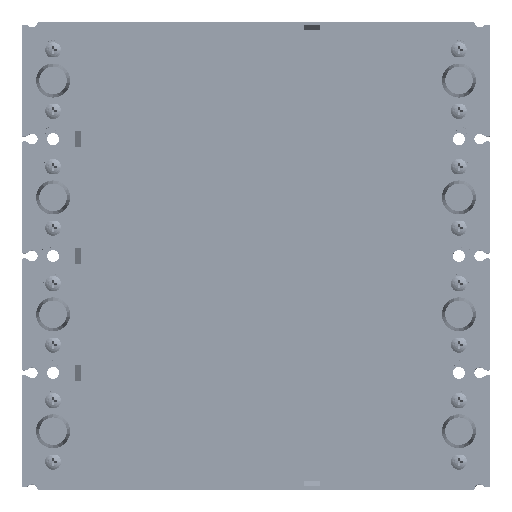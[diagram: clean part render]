
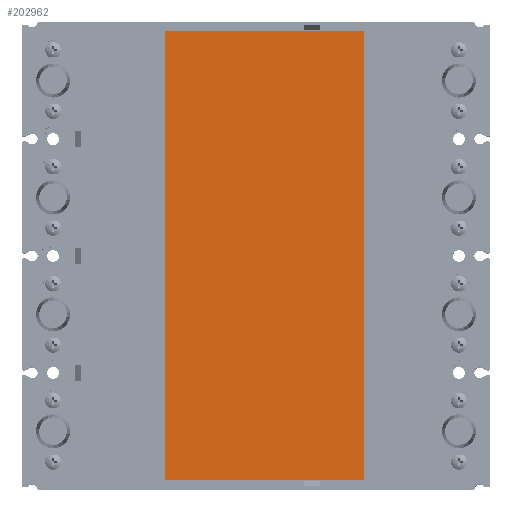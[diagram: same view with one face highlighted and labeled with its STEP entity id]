
A CAD part, top view. The second image highlights one B-rep face of the part: STEP entity #202962.
In plain terms, the highlighted planar face has unit normal (0, 0, 1) as drawn and (0, -1, 0) by its records, which use the part's own axes.
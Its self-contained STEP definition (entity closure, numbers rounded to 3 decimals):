
#202883=DIRECTION('',(-1.,0.,0.));
#202884=VECTOR('',#202883,269.);
#202885=CARTESIAN_POINT('',(134.5,0.,59.5));
#202886=LINE('',#202885,#202884);
#202891=DIRECTION('',(0.,0.,-1.));
#202892=VECTOR('',#202891,119.);
#202893=CARTESIAN_POINT('',(-134.5,0.,59.5));
#202894=LINE('',#202893,#202892);
#202899=DIRECTION('',(1.,0.,0.));
#202900=VECTOR('',#202899,269.);
#202901=CARTESIAN_POINT('',(-134.5,0.,-59.5));
#202902=LINE('',#202901,#202900);
#202907=DIRECTION('',(0.,0.,1.));
#202908=VECTOR('',#202907,119.);
#202909=CARTESIAN_POINT('',(134.5,0.,-59.5));
#202910=LINE('',#202909,#202908);
#202931=CARTESIAN_POINT('',(134.5,0.,59.5));
#202932=CARTESIAN_POINT('',(-134.5,0.,59.5));
#202933=VERTEX_POINT('',#202931);
#202934=VERTEX_POINT('',#202932);
#202935=CARTESIAN_POINT('',(134.5,0.,-59.5));
#202936=VERTEX_POINT('',#202935);
#202937=CARTESIAN_POINT('',(-134.5,0.,-59.5));
#202938=VERTEX_POINT('',#202937);
#202947=CARTESIAN_POINT('',(0.,0.,0.));
#202948=DIRECTION('',(0.,1.,0.));
#202949=DIRECTION('',(1.,0.,0.));
#202950=AXIS2_PLACEMENT_3D('',#202947,#202948,#202949);
#202951=PLANE('',#202950);
#202953=ORIENTED_EDGE('',*,*,#202952,.F.);
#202955=ORIENTED_EDGE('',*,*,#202954,.F.);
#202957=ORIENTED_EDGE('',*,*,#202956,.F.);
#202959=ORIENTED_EDGE('',*,*,#202958,.F.);
#202960=EDGE_LOOP('',(#202953,#202955,#202957,#202959));
#202961=FACE_OUTER_BOUND('',#202960,.F.);
#202962=ADVANCED_FACE('',(#202961),#202951,.F.);
#202952=EDGE_CURVE('',#202933,#202934,#202886,.T.);
#202954=EDGE_CURVE('',#202936,#202933,#202910,.T.);
#202956=EDGE_CURVE('',#202938,#202936,#202902,.T.);
#202958=EDGE_CURVE('',#202934,#202938,#202894,.T.);
